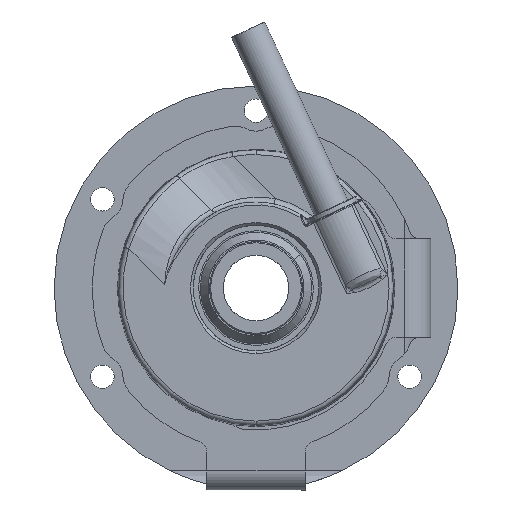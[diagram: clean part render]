
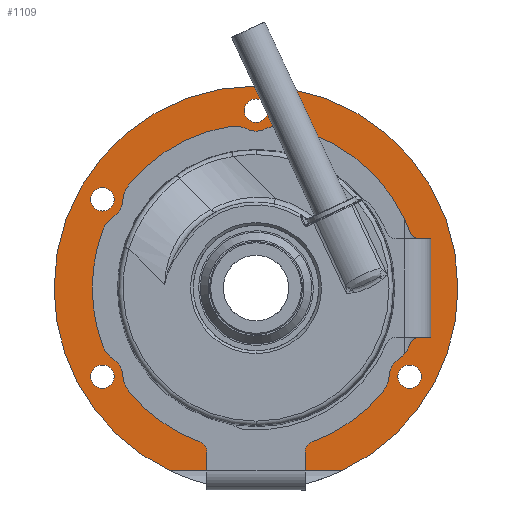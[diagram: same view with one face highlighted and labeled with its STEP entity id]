
A CAD part, left-side view. The second image highlights one B-rep face of the part: STEP entity #1109.
In plain terms, the highlighted planar face has unit normal (-1, 0, 0).
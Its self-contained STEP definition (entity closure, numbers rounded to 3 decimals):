
#801 = VERTEX_POINT ( 'NONE', #7592 ) ;
#814 = EDGE_LOOP ( 'NONE', ( #1068, #3229 ) ) ;
#815 = ORIENTED_EDGE ( 'NONE', *, *, #986, .T. ) ;
#973 = ORIENTED_EDGE ( 'NONE', *, *, #1044, .T. ) ;
#974 = ORIENTED_EDGE ( 'NONE', *, *, #1108, .T. ) ;
#975 = EDGE_LOOP ( 'NONE', ( #976, #815 ) ) ;
#976 = ORIENTED_EDGE ( 'NONE', *, *, #1055, .T. ) ;
#986 = EDGE_CURVE ( 'NONE', #1065, #1056, #8059, .T. ) ;
#998 = VERTEX_POINT ( 'NONE', #9920 ) ;
#1002 = EDGE_CURVE ( 'NONE', #998, #3269, #9963, .T. ) ;
#1023 = EDGE_CURVE ( 'NONE', #1032, #1028, #9893, .T. ) ;
#1028 = VERTEX_POINT ( 'NONE', #9898 ) ;
#1032 = VERTEX_POINT ( 'NONE', #9969 ) ;
#1036 = VERTEX_POINT ( 'NONE', #9970 ) ;
#1041 = VERTEX_POINT ( 'NONE', #10064 ) ;
#1044 = EDGE_CURVE ( 'NONE', #1041, #1036, #10052, .T. ) ;
#1045 = VERTEX_POINT ( 'NONE', #9997 ) ;
#1047 = EDGE_CURVE ( 'NONE', #801, #1045, #9993, .T. ) ;
#1055 = EDGE_CURVE ( 'NONE', #1056, #1065, #9979, .T. ) ;
#1056 = VERTEX_POINT ( 'NONE', #10001 ) ;
#1065 = VERTEX_POINT ( 'NONE', #10037 ) ;
#1068 = ORIENTED_EDGE ( 'NONE', *, *, #1047, .T. ) ;
#1108 = EDGE_CURVE ( 'NONE', #1036, #1041, #8368, .T. ) ;
#1109 = ADVANCED_FACE ( 'NONE', ( #8363, #8362, #8361, #8360, #8359, #8358 ), #8343, .F. ) ;
#1110 = EDGE_LOOP ( 'NONE', ( #973, #974 ) ) ;
#1114 = EDGE_CURVE ( 'NONE', #1045, #801, #8395, .T. ) ;
#1124 = EDGE_CURVE ( 'NONE', #1028, #1032, #8418, .T. ) ;
#2858 = ORIENTED_EDGE ( 'NONE', *, *, #3382, .F. ) ;
#2865 = EDGE_CURVE ( 'NONE', #3329, #3332, #14669, .T. ) ;
#2866 = ORIENTED_EDGE ( 'NONE', *, *, #2867, .F. ) ;
#2867 = EDGE_CURVE ( 'NONE', #998, #3380, #14664, .T. ) ;
#2884 = EDGE_LOOP ( 'NONE', ( #3041, #2981 ) ) ;
#2981 = ORIENTED_EDGE ( 'NONE', *, *, #2865, .T. ) ;
#2982 = EDGE_LOOP ( 'NONE', ( #2866, #3025, #3026, #2858 ) ) ;
#2986 = ORIENTED_EDGE ( 'NONE', *, *, #1124, .T. ) ;
#3025 = ORIENTED_EDGE ( 'NONE', *, *, #1002, .T. ) ;
#3026 = ORIENTED_EDGE ( 'NONE', *, *, #3268, .F. ) ;
#3041 = ORIENTED_EDGE ( 'NONE', *, *, #3331, .T. ) ;
#3228 = ORIENTED_EDGE ( 'NONE', *, *, #1023, .T. ) ;
#3229 = ORIENTED_EDGE ( 'NONE', *, *, #1114, .T. ) ;
#3230 = EDGE_LOOP ( 'NONE', ( #3228, #2986 ) ) ;
#3266 = VERTEX_POINT ( 'NONE', #15694 ) ;
#3268 = EDGE_CURVE ( 'NONE', #3266, #3269, #15693, .T. ) ;
#3269 = VERTEX_POINT ( 'NONE', #15688 ) ;
#3329 = VERTEX_POINT ( 'NONE', #15860 ) ;
#3331 = EDGE_CURVE ( 'NONE', #3332, #3329, #15921, .T. ) ;
#3332 = VERTEX_POINT ( 'NONE', #15916 ) ;
#3380 = VERTEX_POINT ( 'NONE', #10122 ) ;
#3382 = EDGE_CURVE ( 'NONE', #3380, #3266, #10120, .T. ) ;
#7592 = CARTESIAN_POINT ( 'NONE',  ( 28.7, 27.5, 0. ) ) ;
#8056 = DIRECTION ( 'NONE',  ( 0., -1., 0. ) ) ;
#8057 = DIRECTION ( 'NONE',  ( 1., 0., 0. ) ) ;
#8058 = AXIS2_PLACEMENT_3D ( 'NONE', #8066, #8057, #8056 ) ;
#8059 = CIRCLE ( 'NONE', #8058, 2.15 ) ;
#8066 = CARTESIAN_POINT ( 'NONE',  ( 28.7, 28.146, -16.25 ) ) ;
#8339 = DIRECTION ( 'NONE',  ( 0., -1., 0. ) ) ;
#8340 = DIRECTION ( 'NONE',  ( 1., 0., 0. ) ) ;
#8341 = CARTESIAN_POINT ( 'NONE',  ( 28.7, 0., 0. ) ) ;
#8342 = AXIS2_PLACEMENT_3D ( 'NONE', #8341, #8340, #8339 ) ;
#8343 = PLANE ( 'NONE',  #8342 ) ;
#8358 = FACE_OUTER_BOUND ( 'NONE', #2982, .T. ) ;
#8359 = FACE_BOUND ( 'NONE', #2884, .T. ) ;
#8360 = FACE_BOUND ( 'NONE', #3230, .T. ) ;
#8361 = FACE_BOUND ( 'NONE', #814, .T. ) ;
#8362 = FACE_BOUND ( 'NONE', #975, .T. ) ;
#8363 = FACE_BOUND ( 'NONE', #1110, .T. ) ;
#8364 = DIRECTION ( 'NONE',  ( 0., -1., 0. ) ) ;
#8365 = DIRECTION ( 'NONE',  ( 1., 0., 0. ) ) ;
#8366 = CARTESIAN_POINT ( 'NONE',  ( 28.7, 28.146, 16.25 ) ) ;
#8367 = AXIS2_PLACEMENT_3D ( 'NONE', #8366, #8365, #8364 ) ;
#8368 = CIRCLE ( 'NONE', #8367, 2.15 ) ;
#8391 = DIRECTION ( 'NONE',  ( 0., -1., 0. ) ) ;
#8392 = DIRECTION ( 'NONE',  ( 1., 0., 0. ) ) ;
#8393 = CARTESIAN_POINT ( 'NONE',  ( 28.7, 0., 0. ) ) ;
#8394 = AXIS2_PLACEMENT_3D ( 'NONE', #8393, #8392, #8391 ) ;
#8395 = CIRCLE ( 'NONE', #8394, 27.5 ) ;
#8414 = DIRECTION ( 'NONE',  ( 0., -1., 0. ) ) ;
#8415 = DIRECTION ( 'NONE',  ( 1., 0., 0. ) ) ;
#8416 = CARTESIAN_POINT ( 'NONE',  ( 28.7, -28.146, -16.25 ) ) ;
#8417 = AXIS2_PLACEMENT_3D ( 'NONE', #8416, #8415, #8414 ) ;
#8418 = CIRCLE ( 'NONE', #8417, 2.15 ) ;
#9882 = CARTESIAN_POINT ( 'NONE',  ( 28.7, -28.146, -16.25 ) ) ;
#9887 = AXIS2_PLACEMENT_3D ( 'NONE', #9882, #9895, #9894 ) ;
#9893 = CIRCLE ( 'NONE', #9887, 2.15 ) ;
#9894 = DIRECTION ( 'NONE',  ( 0., -1., 0. ) ) ;
#9895 = DIRECTION ( 'NONE',  ( 1., 0., 0. ) ) ;
#9898 = CARTESIAN_POINT ( 'NONE',  ( 28.7, -30.296, -16.25 ) ) ;
#9920 = CARTESIAN_POINT ( 'NONE',  ( 28.7, 15.708, -33.5 ) ) ;
#9937 = DIRECTION ( 'NONE',  ( 0., -1., 0. ) ) ;
#9938 = VECTOR ( 'NONE', #9937, 1000. ) ;
#9939 = CARTESIAN_POINT ( 'NONE',  ( 28.7, -9., -33.5 ) ) ;
#9963 = LINE ( 'NONE', #9939, #9938 ) ;
#9969 = CARTESIAN_POINT ( 'NONE',  ( 28.7, -25.996, -16.25 ) ) ;
#9970 = CARTESIAN_POINT ( 'NONE',  ( 28.7, 25.996, 16.25 ) ) ;
#9976 = DIRECTION ( 'NONE',  ( 0., -1., 0. ) ) ;
#9977 = DIRECTION ( 'NONE',  ( 1., 0., 0. ) ) ;
#9978 = AXIS2_PLACEMENT_3D ( 'NONE', #9986, #9977, #9976 ) ;
#9979 = CIRCLE ( 'NONE', #9978, 2.15 ) ;
#9986 = CARTESIAN_POINT ( 'NONE',  ( 28.7, 28.146, -16.25 ) ) ;
#9990 = DIRECTION ( 'NONE',  ( 0., -1., 0. ) ) ;
#9991 = DIRECTION ( 'NONE',  ( 1., 0., 0. ) ) ;
#9992 = AXIS2_PLACEMENT_3D ( 'NONE', #10026, #9991, #9990 ) ;
#9993 = CIRCLE ( 'NONE', #9992, 27.5 ) ;
#9997 = CARTESIAN_POINT ( 'NONE',  ( 28.7, -27.5, 0. ) ) ;
#10001 = CARTESIAN_POINT ( 'NONE',  ( 28.7, 30.296, -16.25 ) ) ;
#10026 = CARTESIAN_POINT ( 'NONE',  ( 28.7, 0., 0. ) ) ;
#10027 = DIRECTION ( 'NONE',  ( 0., -1., 0. ) ) ;
#10037 = CARTESIAN_POINT ( 'NONE',  ( 28.7, 25.996, -16.25 ) ) ;
#10049 = DIRECTION ( 'NONE',  ( 1., 0., 0. ) ) ;
#10050 = CARTESIAN_POINT ( 'NONE',  ( 28.7, 28.146, 16.25 ) ) ;
#10051 = AXIS2_PLACEMENT_3D ( 'NONE', #10050, #10049, #10027 ) ;
#10052 = CIRCLE ( 'NONE', #10051, 2.15 ) ;
#10064 = CARTESIAN_POINT ( 'NONE',  ( 28.7, 30.296, 16.25 ) ) ;
#10116 = DIRECTION ( 'NONE',  ( 0., -1., 0. ) ) ;
#10117 = DIRECTION ( 'NONE',  ( 1., 0., 0. ) ) ;
#10118 = CARTESIAN_POINT ( 'NONE',  ( 28.7, 0., 0. ) ) ;
#10119 = AXIS2_PLACEMENT_3D ( 'NONE', #10118, #10117, #10116 ) ;
#10120 = CIRCLE ( 'NONE', #10119, 37. ) ;
#10122 = CARTESIAN_POINT ( 'NONE',  ( 28.7, 37., 0. ) ) ;
#14660 = DIRECTION ( 'NONE',  ( 0., -1., 0. ) ) ;
#14661 = DIRECTION ( 'NONE',  ( 1., 0., 0. ) ) ;
#14662 = CARTESIAN_POINT ( 'NONE',  ( 28.7, 0., 0. ) ) ;
#14663 = AXIS2_PLACEMENT_3D ( 'NONE', #14662, #14661, #14660 ) ;
#14664 = CIRCLE ( 'NONE', #14663, 37. ) ;
#14665 = DIRECTION ( 'NONE',  ( 0., -1., 0. ) ) ;
#14666 = DIRECTION ( 'NONE',  ( 1., 0., 0. ) ) ;
#14667 = CARTESIAN_POINT ( 'NONE',  ( 28.7, 0., 32.5 ) ) ;
#14668 = AXIS2_PLACEMENT_3D ( 'NONE', #14667, #14666, #14665 ) ;
#14669 = CIRCLE ( 'NONE', #14668, 2.15 ) ;
#15688 = CARTESIAN_POINT ( 'NONE',  ( 28.7, -15.708, -33.5 ) ) ;
#15689 = DIRECTION ( 'NONE',  ( 0., -1., 0. ) ) ;
#15690 = DIRECTION ( 'NONE',  ( 1., 0., 0. ) ) ;
#15691 = CARTESIAN_POINT ( 'NONE',  ( 28.7, 0., 0. ) ) ;
#15692 = AXIS2_PLACEMENT_3D ( 'NONE', #15691, #15690, #15689 ) ;
#15693 = CIRCLE ( 'NONE', #15692, 37. ) ;
#15694 = CARTESIAN_POINT ( 'NONE',  ( 28.7, -37., 0. ) ) ;
#15860 = CARTESIAN_POINT ( 'NONE',  ( 28.7, -2.15, 32.5 ) ) ;
#15916 = CARTESIAN_POINT ( 'NONE',  ( 28.7, 2.15, 32.5 ) ) ;
#15917 = DIRECTION ( 'NONE',  ( 0., -1., 0. ) ) ;
#15918 = DIRECTION ( 'NONE',  ( 1., 0., 0. ) ) ;
#15919 = CARTESIAN_POINT ( 'NONE',  ( 28.7, 0., 32.5 ) ) ;
#15920 = AXIS2_PLACEMENT_3D ( 'NONE', #15919, #15918, #15917 ) ;
#15921 = CIRCLE ( 'NONE', #15920, 2.15 ) ;
